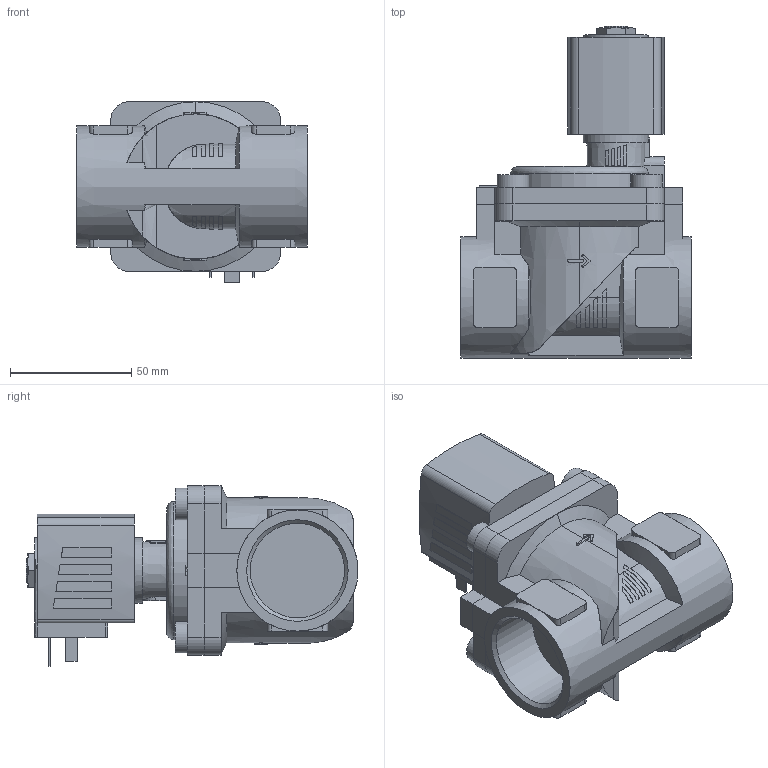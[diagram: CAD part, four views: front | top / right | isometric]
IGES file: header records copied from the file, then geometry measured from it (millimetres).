
Start section: Data from Parasolid IGES Translator 26.0.171, Copyright(c) 2006 Siemens PLM Software. All Rights Reserved.
Global section: file name: 6281-261667-2_2-Way_Solenoid_Valve__Servo-assisted__General_Purpose.igs; native system: By Siemens PLM Incorporated; preprocessor: XPlus GENERIC/IGES 26.0.171; author: Noname; organization: Noname; date: 20240827.161040; units: millimetre
Bounding box: 95 x 137 x 74.5 mm (x, y, z)
Surface area: 62169.1 mm2 (no closed solid volume)
Topology: 0 solids, 0 shells, 361 faces, 1888 edges, 1880 vertices
Faces by surface type: extrusion 242, revolution 119
